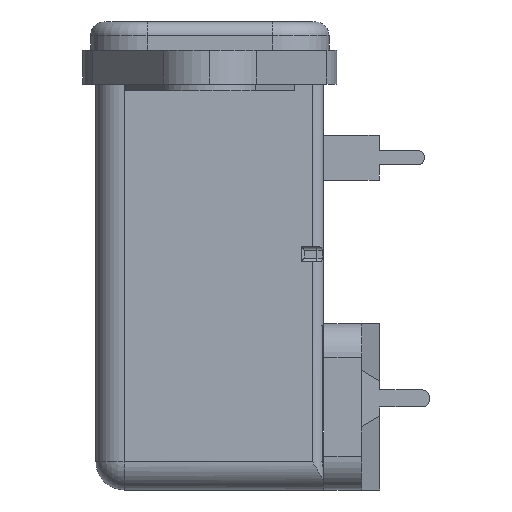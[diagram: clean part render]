
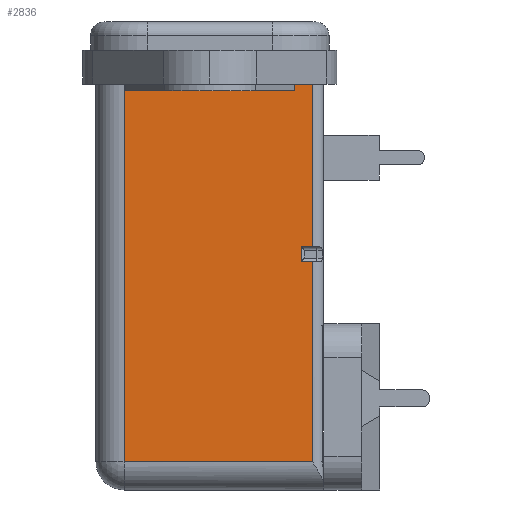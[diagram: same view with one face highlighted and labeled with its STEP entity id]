
A CAD part, left-side view. The second image highlights one B-rep face of the part: STEP entity #2836.
In plain terms, the highlighted planar face has unit normal (-1, 0, 0).
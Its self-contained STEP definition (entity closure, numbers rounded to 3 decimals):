
#2824 = ORIENTED_EDGE ( 'NONE', *, *, #2827, .F. ) ;
#2825 = VERTEX_POINT ( 'NONE', #8160 ) ;
#2826 = VERTEX_POINT ( 'NONE', #8159 ) ;
#2827 = EDGE_CURVE ( 'NONE', #2826, #2825, #8158, .T. ) ;
#2828 = ORIENTED_EDGE ( 'NONE', *, *, #2911, .T. ) ;
#2829 = VERTEX_POINT ( 'NONE', #8154 ) ;
#2830 = ORIENTED_EDGE ( 'NONE', *, *, #2831, .T. ) ;
#2831 = EDGE_CURVE ( 'NONE', #2829, #2904, #8153, .T. ) ;
#2836 = ADVANCED_FACE ( 'NONE', ( #8200 ), #8199, .F. ) ;
#2837 = ORIENTED_EDGE ( 'NONE', *, *, #2838, .T. ) ;
#2838 = EDGE_CURVE ( 'NONE', #2839, #2840, #8193, .T. ) ;
#2839 = VERTEX_POINT ( 'NONE', #8189 ) ;
#2840 = VERTEX_POINT ( 'NONE', #8188 ) ;
#2862 = EDGE_LOOP ( 'NONE', ( #2837, #2828, #2824, #2906, #2830, #2905, #2910, #2938, #2891, #2887, #2889, #2932 ) ) ;
#2867 = VERTEX_POINT ( 'NONE', #8206 ) ;
#2868 = VERTEX_POINT ( 'NONE', #8273 ) ;
#2869 = EDGE_CURVE ( 'NONE', #2868, #2890, #8272, .T. ) ;
#2880 = VERTEX_POINT ( 'NONE', #8245 ) ;
#2887 = ORIENTED_EDGE ( 'NONE', *, *, #2888, .T. ) ;
#2888 = EDGE_CURVE ( 'NONE', #2867, #2925, #8297, .T. ) ;
#2889 = ORIENTED_EDGE ( 'NONE', *, *, #2931, .F. ) ;
#2890 = VERTEX_POINT ( 'NONE', #8293 ) ;
#2891 = ORIENTED_EDGE ( 'NONE', *, *, #2892, .T. ) ;
#2892 = EDGE_CURVE ( 'NONE', #2868, #2867, #8292, .T. ) ;
#2893 = EDGE_CURVE ( 'NONE', #2890, #2909, #8288, .T. ) ;
#2904 = VERTEX_POINT ( 'NONE', #8331 ) ;
#2905 = ORIENTED_EDGE ( 'NONE', *, *, #2908, .T. ) ;
#2906 = ORIENTED_EDGE ( 'NONE', *, *, #2907, .F. ) ;
#2907 = EDGE_CURVE ( 'NONE', #2829, #2826, #8330, .T. ) ;
#2908 = EDGE_CURVE ( 'NONE', #2904, #2909, #8326, .T. ) ;
#2909 = VERTEX_POINT ( 'NONE', #8322 ) ;
#2910 = ORIENTED_EDGE ( 'NONE', *, *, #2893, .F. ) ;
#2911 = EDGE_CURVE ( 'NONE', #2840, #2825, #8321, .T. ) ;
#2925 = VERTEX_POINT ( 'NONE', #8362 ) ;
#2931 = EDGE_CURVE ( 'NONE', #2880, #2925, #8352, .T. ) ;
#2932 = ORIENTED_EDGE ( 'NONE', *, *, #2933, .T. ) ;
#2933 = EDGE_CURVE ( 'NONE', #2880, #2839, #8347, .T. ) ;
#2938 = ORIENTED_EDGE ( 'NONE', *, *, #2869, .F. ) ;
#8150 = DIRECTION ( 'NONE',  ( 0., -1., 0. ) ) ;
#8151 = VECTOR ( 'NONE', #8150, 1000. ) ;
#8152 = CARTESIAN_POINT ( 'NONE',  ( -15., -8.075, 21.5 ) ) ;
#8153 = LINE ( 'NONE', #8152, #8151 ) ;
#8154 = CARTESIAN_POINT ( 'NONE',  ( -15., -8.075, 21.5 ) ) ;
#8155 = DIRECTION ( 'NONE',  ( 0., -1., 0. ) ) ;
#8156 = VECTOR ( 'NONE', #8155, 1000. ) ;
#8157 = CARTESIAN_POINT ( 'NONE',  ( -15., -8.075, 20.2 ) ) ;
#8158 = LINE ( 'NONE', #8157, #8156 ) ;
#8159 = CARTESIAN_POINT ( 'NONE',  ( -15., -8.075, 20.2 ) ) ;
#8160 = CARTESIAN_POINT ( 'NONE',  ( -15., -9.075, 20.2 ) ) ;
#8188 = CARTESIAN_POINT ( 'NONE',  ( -15., -9.075, 2.5 ) ) ;
#8189 = CARTESIAN_POINT ( 'NONE',  ( -15., 7.575, 2.5 ) ) ;
#8190 = DIRECTION ( 'NONE',  ( 0., -1., 0. ) ) ;
#8191 = VECTOR ( 'NONE', #8190, 1000. ) ;
#8192 = CARTESIAN_POINT ( 'NONE',  ( -15., 10.075, 2.5 ) ) ;
#8193 = LINE ( 'NONE', #8192, #8191 ) ;
#8194 = DIRECTION ( 'NONE',  ( 0., 1., 0. ) ) ;
#8195 = DIRECTION ( 'NONE',  ( 1., 0., 0. ) ) ;
#8196 = AXIS2_PLACEMENT_3D ( 'NONE', #8198, #8195, #8194 ) ;
#8198 = CARTESIAN_POINT ( 'NONE',  ( -15., 10.075, 35.9 ) ) ;
#8199 = PLANE ( 'NONE',  #8196 ) ;
#8200 = FACE_OUTER_BOUND ( 'NONE', #2862, .T. ) ;
#8206 = CARTESIAN_POINT ( 'NONE',  ( -15., 7.5, 35.3 ) ) ;
#8245 = CARTESIAN_POINT ( 'NONE',  ( -15., 7.575, 35.9 ) ) ;
#8269 = DIRECTION ( 'NONE',  ( 0., 0., 1. ) ) ;
#8270 = VECTOR ( 'NONE', #8269, 1000. ) ;
#8271 = CARTESIAN_POINT ( 'NONE',  ( -15., -7.5, 35.3 ) ) ;
#8272 = LINE ( 'NONE', #8271, #8270 ) ;
#8273 = CARTESIAN_POINT ( 'NONE',  ( -15., -7.5, 35.3 ) ) ;
#8285 = DIRECTION ( 'NONE',  ( 0., -1., 0. ) ) ;
#8286 = VECTOR ( 'NONE', #8285, 1000. ) ;
#8287 = CARTESIAN_POINT ( 'NONE',  ( -15., 10.075, 35.9 ) ) ;
#8288 = LINE ( 'NONE', #8287, #8286 ) ;
#8289 = DIRECTION ( 'NONE',  ( 0., 1., 0. ) ) ;
#8290 = VECTOR ( 'NONE', #8289, 1000. ) ;
#8291 = CARTESIAN_POINT ( 'NONE',  ( -15., -7.5, 35.3 ) ) ;
#8292 = LINE ( 'NONE', #8291, #8290 ) ;
#8293 = CARTESIAN_POINT ( 'NONE',  ( -15., -7.5, 35.9 ) ) ;
#8294 = DIRECTION ( 'NONE',  ( 0., 0., 1. ) ) ;
#8295 = VECTOR ( 'NONE', #8294, 1000. ) ;
#8296 = CARTESIAN_POINT ( 'NONE',  ( -15., 7.5, 35.3 ) ) ;
#8297 = LINE ( 'NONE', #8296, #8295 ) ;
#8318 = DIRECTION ( 'NONE',  ( 0., 0., 1. ) ) ;
#8319 = VECTOR ( 'NONE', #8318, 1000. ) ;
#8320 = CARTESIAN_POINT ( 'NONE',  ( -15., -9.075, 11.35 ) ) ;
#8321 = LINE ( 'NONE', #8320, #8319 ) ;
#8322 = CARTESIAN_POINT ( 'NONE',  ( -15., -9.075, 35.9 ) ) ;
#8323 = DIRECTION ( 'NONE',  ( 0., 0., 1. ) ) ;
#8324 = VECTOR ( 'NONE', #8323, 1000. ) ;
#8325 = CARTESIAN_POINT ( 'NONE',  ( -15., -9.075, 35.9 ) ) ;
#8326 = LINE ( 'NONE', #8325, #8324 ) ;
#8327 = DIRECTION ( 'NONE',  ( 0., 0., -1. ) ) ;
#8328 = VECTOR ( 'NONE', #8327, 1000. ) ;
#8329 = CARTESIAN_POINT ( 'NONE',  ( -15., -8.075, 21.5 ) ) ;
#8330 = LINE ( 'NONE', #8329, #8328 ) ;
#8331 = CARTESIAN_POINT ( 'NONE',  ( -15., -9.075, 21.5 ) ) ;
#8344 = DIRECTION ( 'NONE',  ( 0., 0., -1. ) ) ;
#8345 = VECTOR ( 'NONE', #8344, 1000. ) ;
#8346 = CARTESIAN_POINT ( 'NONE',  ( -15., 7.575, 35.9 ) ) ;
#8347 = LINE ( 'NONE', #8346, #8345 ) ;
#8349 = DIRECTION ( 'NONE',  ( 0., -1., 0. ) ) ;
#8350 = VECTOR ( 'NONE', #8349, 1000. ) ;
#8351 = CARTESIAN_POINT ( 'NONE',  ( -15., 10.075, 35.9 ) ) ;
#8352 = LINE ( 'NONE', #8351, #8350 ) ;
#8362 = CARTESIAN_POINT ( 'NONE',  ( -15., 7.5, 35.9 ) ) ;
